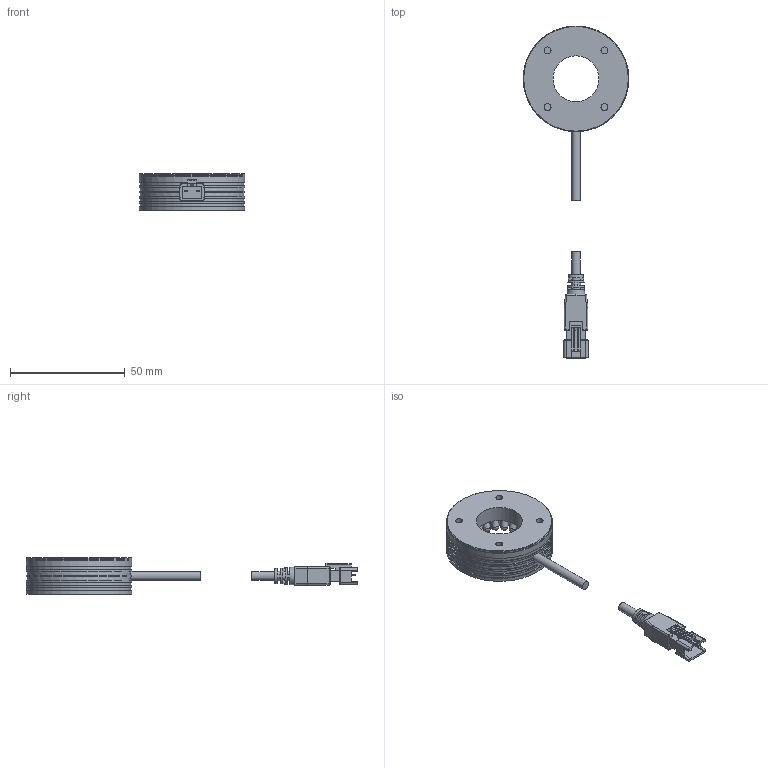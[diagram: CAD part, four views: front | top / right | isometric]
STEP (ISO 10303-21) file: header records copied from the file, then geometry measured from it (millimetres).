
FILE_DESCRIPTION(('STEP AP214'),'1');
FILE_NAME('VLR-30D46.stp','2026-03-24T10:05:05',(' '),(' '),'Spatial InterOp 3D',' ',' ');
FILE_SCHEMA(('AUTOMOTIVE_DESIGN { 1 0 10303 214 1 1 1 1 }'));
Length unit declared in the file: metre
Products named in the file (3): VLR-30D46; Component1; Component2
Assembly tree (2 placements, depth 2):
  VLR-30D46
    Component1
    Component2
Bounding box: 46 x 144.6 x 16 mm (x, y, z)
Volume: 15524.6 mm3; surface area: 13938 mm2
Topology: 2 solids, 3 shells, 297 faces, 818 edges, 543 vertices
Faces by surface type: plane 133, cylinder 103, sphere 46, cone 7, bspline 4, torus 4
Full cylindrical faces by diameter (mm): 2 x4, 3 x46, 3.9 x2, 4 x1, 20 x1, 22.5 x2, 38.8 x1, 40.8 x2, 45.2 x3, 46 x6
Entity records: 12526 total; most frequent: CARTESIAN_POINT 3770, DIRECTION 1241, ORIENTED_EDGE 1184, EDGE_CURVE 592, AXIS2_PLACEMENT_3D 471, EDGE_LOOP 443, VERTEX_POINT 443, FACE_OUTER_BOUND 365
